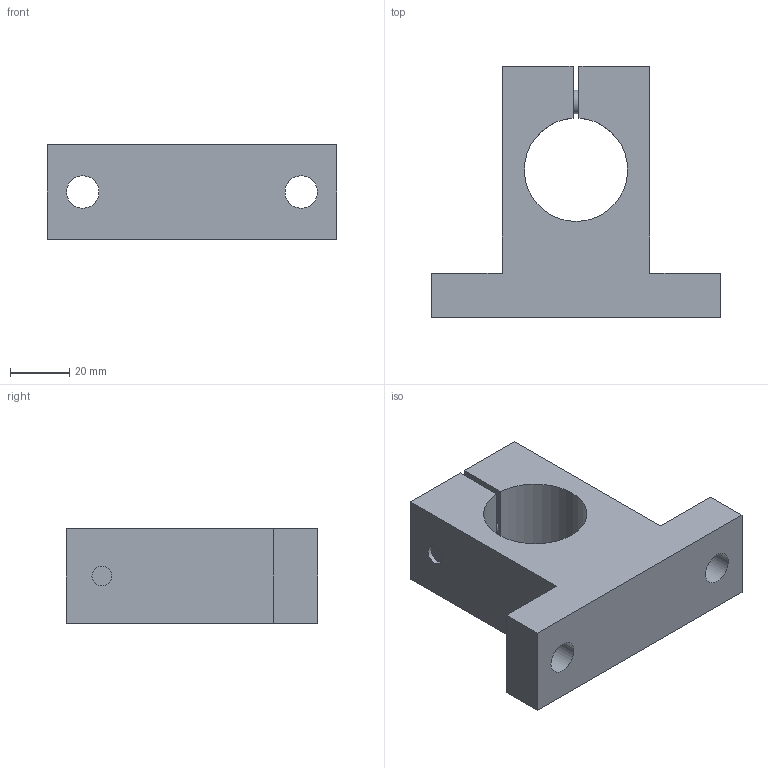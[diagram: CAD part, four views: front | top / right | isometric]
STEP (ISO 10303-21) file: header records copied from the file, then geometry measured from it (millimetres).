
FILE_DESCRIPTION(('STEP AP203'),'1');
FILE_NAME('//192.168.1.1/share/s-4 技術開発/s-4-14_個人別フォルダ/橋詰/09_CAD_DATA/3D/HP用/3Ｄモデル/SN-A/SN-35A.step','2021-09-16T02:46:17',(' '),(' '),'Spatial InterOp 3D',' ',' ');
FILE_SCHEMA(('CONFIG_CONTROL_DESIGN'));
Length unit declared in the file: millimetre
Products named in the file (2): 1; 2
Bounding box: 98 x 85 x 32 mm (x, y, z)
Volume: 124061.5 mm3; surface area: 27621.4 mm2
Topology: 2 solids, 2 shells, 34 faces, 82 edges, 55 vertices
Faces by surface type: plane 24, cylinder 9, cone 1
Full cylindrical faces by diameter (mm): 6.75 x1, 8 x2, 9 x1, 11 x2, 13 x1, 14 x1
Entity records: 1054 total; most frequent: CARTESIAN_POINT 191, DIRECTION 158, ORIENTED_EDGE 140, EDGE_CURVE 70, EDGE_LOOP 54, AXIS2_PLACEMENT_3D 53, VERTEX_POINT 52, LINE 52
